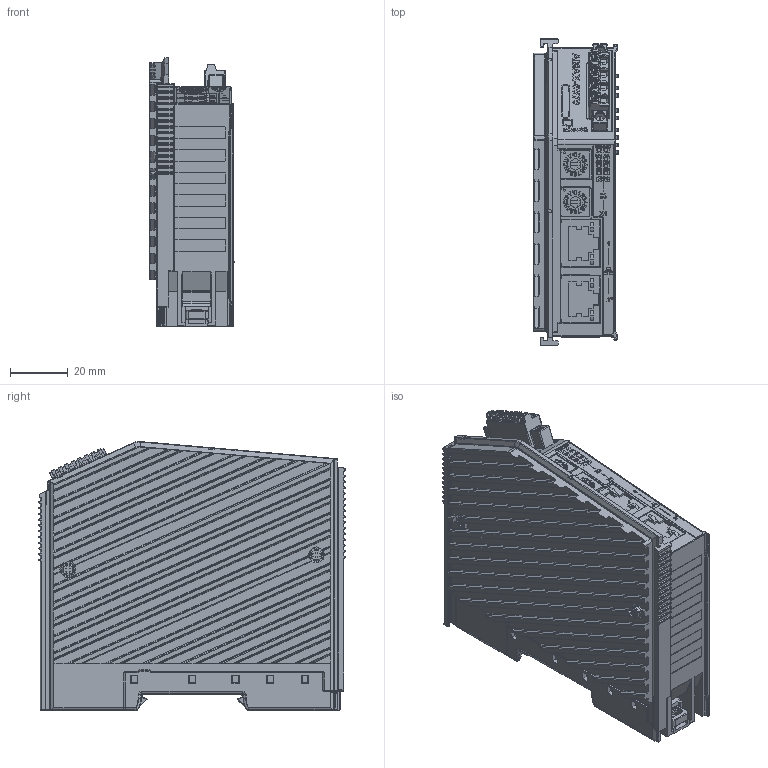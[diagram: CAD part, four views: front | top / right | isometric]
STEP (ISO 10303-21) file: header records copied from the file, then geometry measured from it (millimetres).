
FILE_DESCRIPTION (( 'STEP AP214' ), '1' );
FILE_NAME ('assy_AMAX-5070.STEP', '2023-03-31T06:02:33', ( '' ), ( '' ), 'SwSTEP 2.0', 'SolidWorks 2022', '' );
FILE_SCHEMA (( 'AUTOMOTIVE_DESIGN' ));
Length unit declared in the file: millimetre
Products named in the file (1): assy_AMAX-5070
Bounding box: 29.19 x 105.9 x 93.01 mm (x, y, z)
Topology: 0 solids, 94 shells, 7282 faces, 19614 edges, 12391 vertices
Faces by surface type: plane 4497, cylinder 1621, bspline 711, torus 242, sphere 170, cone 41
Entity records: 297509 total; most frequent: CARTESIAN_POINT 70898, ORIENTED_EDGE 38464, DIRECTION 33830, EDGE_CURVE 19371, LINE 14276, VECTOR 14276, VERTEX_POINT 12425, AXIS2_PLACEMENT_3D 9777
